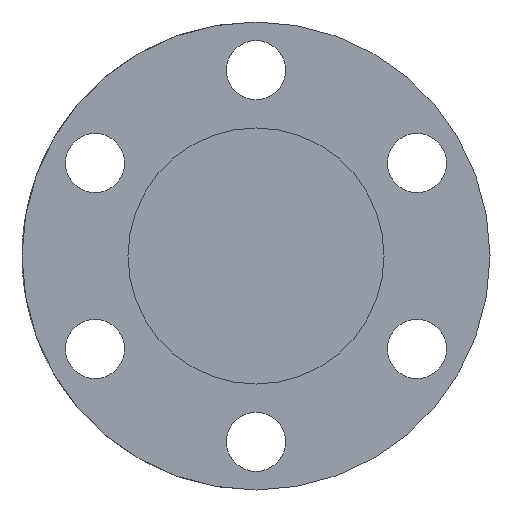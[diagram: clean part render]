
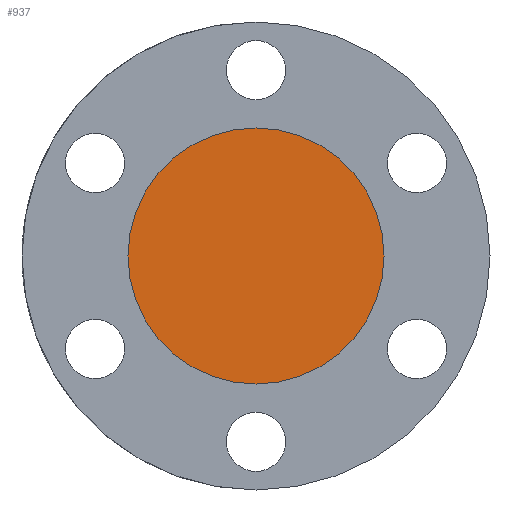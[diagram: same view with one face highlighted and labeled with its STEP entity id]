
A CAD part, front view. The second image highlights one B-rep face of the part: STEP entity #937.
In plain terms, the highlighted planar face has unit normal (0, -1, 0).
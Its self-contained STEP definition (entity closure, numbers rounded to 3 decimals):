
#46 = CIRCLE ( 'NONE', #248, 10.25 ) ;
#49 = PLANE ( 'NONE',  #930 ) ;
#77 = CARTESIAN_POINT ( 'NONE',  ( 0., 1.7, 0. ) ) ;
#106 = CARTESIAN_POINT ( 'NONE',  ( 0., 1.7, 10.25 ) ) ;
#149 = CARTESIAN_POINT ( 'NONE',  ( 0., 1.7, 0. ) ) ;
#201 = ORIENTED_EDGE ( 'NONE', *, *, #1032, .T. ) ;
#248 = AXIS2_PLACEMENT_3D ( 'NONE', #149, #850, #636 ) ;
#314 = AXIS2_PLACEMENT_3D ( 'NONE', #77, #494, #774 ) ;
#355 = DIRECTION ( 'NONE',  ( 0., 1., 0. ) ) ;
#494 = DIRECTION ( 'NONE',  ( 0., -1., 0. ) ) ;
#497 = VERTEX_POINT ( 'NONE', #106 ) ;
#632 = CARTESIAN_POINT ( 'NONE',  ( 0., 1.7, -10.25 ) ) ;
#636 = DIRECTION ( 'NONE',  ( 0., 0., 1. ) ) ;
#774 = DIRECTION ( 'NONE',  ( 0., 0., 1. ) ) ;
#850 = DIRECTION ( 'NONE',  ( 0., -1., 0. ) ) ;
#871 = VERTEX_POINT ( 'NONE', #632 ) ;
#930 = AXIS2_PLACEMENT_3D ( 'NONE', #938, #355, #950 ) ;
#935 = EDGE_CURVE ( 'NONE', #871, #497, #46, .T. ) ;
#937 = ADVANCED_FACE ( 'NONE', ( #1232 ), #49, .F. ) ;
#938 = CARTESIAN_POINT ( 'NONE',  ( 0., 1.7, 10.75 ) ) ;
#950 = DIRECTION ( 'NONE',  ( 0., 0., 1. ) ) ;
#985 = EDGE_LOOP ( 'NONE', ( #201, #1202 ) ) ;
#1032 = EDGE_CURVE ( 'NONE', #497, #871, #1131, .T. ) ;
#1131 = CIRCLE ( 'NONE', #314, 10.25 ) ;
#1202 = ORIENTED_EDGE ( 'NONE', *, *, #935, .T. ) ;
#1232 = FACE_OUTER_BOUND ( 'NONE', #985, .T. ) ;
